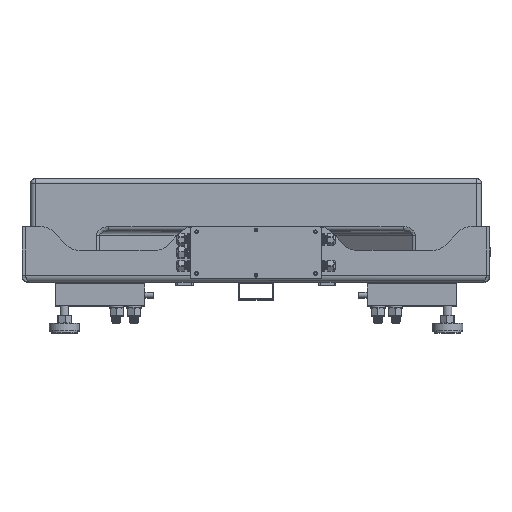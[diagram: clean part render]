
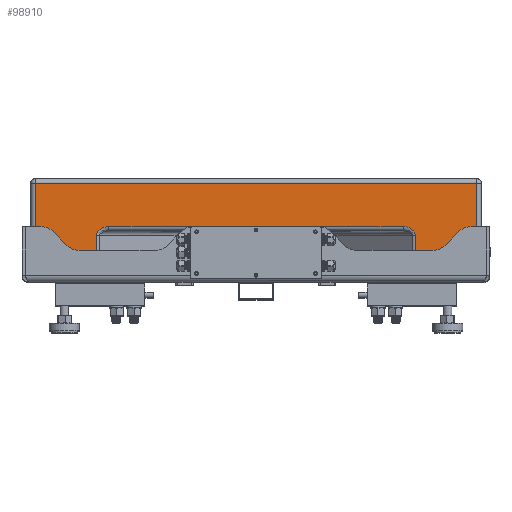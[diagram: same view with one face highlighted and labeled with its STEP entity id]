
A CAD part, top view. The second image highlights one B-rep face of the part: STEP entity #98910.
In plain terms, the highlighted planar face has unit normal (0, 0, 1).
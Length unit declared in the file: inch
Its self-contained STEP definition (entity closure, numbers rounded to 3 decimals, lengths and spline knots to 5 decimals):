
#420 = DIRECTION ( 'NONE',  ( 1., 0., 0. ) ) ;
#1470 = CARTESIAN_POINT ( 'NONE',  ( 9.04841, 3., 12.8145 ) ) ;
#1924 = EDGE_LOOP ( 'NONE', ( #128476, #69641, #35270, #62094, #43834, #9213, #21598, #48860, #27641, #70360, #4426, #20280, #61965, #93629, #49377, #106004 ) ) ;
#2315 = LINE ( 'NONE', #43437, #96408 ) ;
#3171 = EDGE_CURVE ( 'NONE', #106182, #100044, #76167, .T. ) ;
#3804 = LINE ( 'NONE', #24688, #96337 ) ;
#4422 = CARTESIAN_POINT ( 'NONE',  ( -12.6875, 5.5, 12.8145 ) ) ;
#4426 = ORIENTED_EDGE ( 'NONE', *, *, #22547, .T. ) ;
#5117 = EDGE_CURVE ( 'NONE', #71914, #8706, #93037, .T. ) ;
#6008 = CARTESIAN_POINT ( 'NONE',  ( -8.44486, 3., 12.8145 ) ) ;
#6174 = EDGE_CURVE ( 'NONE', #100855, #22885, #80651, .T. ) ;
#6747 = VERTEX_POINT ( 'NONE', #103478 ) ;
#6768 = VERTEX_POINT ( 'NONE', #62146 ) ;
#7357 =( BOUNDED_CURVE ( )  B_SPLINE_CURVE ( 3, ( #58912, #9866, #111360, #31410 ),
 .UNSPECIFIED., .F., .T. ) 
 B_SPLINE_CURVE_WITH_KNOTS ( ( 4, 4 ),
 ( 1.5708, 3.14159 ),
 .UNSPECIFIED. ) 
 CURVE ( )  GEOMETRIC_REPRESENTATION_ITEM ( )  RATIONAL_B_SPLINE_CURVE ( ( 1., 0.805, 0.805, 1. ) ) 
 REPRESENTATION_ITEM ( '' )  );
#8680 = DIRECTION ( 'NONE',  ( 0., 1., 0. ) ) ;
#8706 = VERTEX_POINT ( 'NONE', #121461 ) ;
#9213 = ORIENTED_EDGE ( 'NONE', *, *, #6174, .T. ) ;
#9866 = CARTESIAN_POINT ( 'NONE',  ( -8.85907, 3., 12.8145 ) ) ;
#10985 = VERTEX_POINT ( 'NONE', #23120 ) ;
#13567 = DIRECTION ( 'NONE',  ( 0., 0., -1. ) ) ;
#16883 = EDGE_CURVE ( 'NONE', #119955, #115424, #2315, .T. ) ;
#17274 = DIRECTION ( 'NONE',  ( 1., 0., 0. ) ) ;
#17351 = CARTESIAN_POINT ( 'NONE',  ( 8.85907, 3., 12.8145 ) ) ;
#18783 = VECTOR ( 'NONE', #54521, 39.37008 ) ;
#18963 = VECTOR ( 'NONE', #101961, 39.37008 ) ;
#19645 = EDGE_CURVE ( 'NONE', #81978, #96882, #61901, .T. ) ;
#19829 = CARTESIAN_POINT ( 'NONE',  ( -2.6875, 3., 12.8145 ) ) ;
#20018 = VECTOR ( 'NONE', #114847, 39.37008 ) ;
#20245 = AXIS2_PLACEMENT_3D ( 'NONE', #51053, #72081, #91116 ) ;
#20280 = ORIENTED_EDGE ( 'NONE', *, *, #111287, .T. ) ;
#21598 = ORIENTED_EDGE ( 'NONE', *, *, #27661, .F. ) ;
#21732 = DIRECTION ( 'NONE',  ( 1., 0., 0. ) ) ;
#22547 = EDGE_CURVE ( 'NONE', #8706, #6768, #128703, .T. ) ;
#22885 = VERTEX_POINT ( 'NONE', #99190 ) ;
#23120 = CARTESIAN_POINT ( 'NONE',  ( 2.6875, 3., 12.8145 ) ) ;
#24688 = CARTESIAN_POINT ( 'NONE',  ( -9.04841, 0.25, 12.8145 ) ) ;
#25349 = CIRCLE ( 'NONE', #90165, 0.5 ) ;
#27641 = ORIENTED_EDGE ( 'NONE', *, *, #35888, .F. ) ;
#27661 = EDGE_CURVE ( 'NONE', #10985, #22885, #25349, .T. ) ;
#31015 = CARTESIAN_POINT ( 'NONE',  ( -9.15197, 0.25, 12.8145 ) ) ;
#31410 = CARTESIAN_POINT ( 'NONE',  ( -9.15197, 2.5, 12.8145 ) ) ;
#34394 = CARTESIAN_POINT ( 'NONE',  ( -9.15197, 2.5, 12.8145 ) ) ;
#35270 = ORIENTED_EDGE ( 'NONE', *, *, #40231, .F. ) ;
#35888 = EDGE_CURVE ( 'NONE', #71914, #66668, #56594, .T. ) ;
#36626 = EDGE_CURVE ( 'NONE', #80128, #115424, #7357, .T. ) ;
#38959 = CARTESIAN_POINT ( 'NONE',  ( 9.15197, 2.5, 12.8145 ) ) ;
#39461 = LINE ( 'NONE', #89330, #64486 ) ;
#39623 = EDGE_CURVE ( 'NONE', #96882, #100855, #39461, .T. ) ;
#40184 = DIRECTION ( 'NONE',  ( 0., 0., 1. ) ) ;
#40231 = EDGE_CURVE ( 'NONE', #81978, #122178, #45211, .T. ) ;
#41236 = EDGE_CURVE ( 'NONE', #10985, #66668, #101052, .T. ) ;
#43437 = CARTESIAN_POINT ( 'NONE',  ( -9.15197, 2.75, 12.8145 ) ) ;
#43834 = ORIENTED_EDGE ( 'NONE', *, *, #39623, .T. ) ;
#45211 = CIRCLE ( 'NONE', #20245, 0.5 ) ;
#47438 = LINE ( 'NONE', #64577, #107725 ) ;
#48860 = ORIENTED_EDGE ( 'NONE', *, *, #41236, .T. ) ;
#49377 = ORIENTED_EDGE ( 'NONE', *, *, #72788, .T. ) ;
#49696 = CARTESIAN_POINT ( 'NONE',  ( 2.1875, 0.25, 12.8145 ) ) ;
#50054 = CARTESIAN_POINT ( 'NONE',  ( -2.1875, 5.75, 12.8145 ) ) ;
#50603 = DIRECTION ( 'NONE',  ( -1., 0., 0. ) ) ;
#51053 = CARTESIAN_POINT ( 'NONE',  ( -2.6875, 2.5, 12.8145 ) ) ;
#51688 = DIRECTION ( 'NONE',  ( 0., -1., 0. ) ) ;
#51916 = CARTESIAN_POINT ( 'NONE',  ( 2.6875, 2.5, 12.8145 ) ) ;
#52090 = VECTOR ( 'NONE', #94608, 39.37008 ) ;
#52842 = EDGE_CURVE ( 'NONE', #6747, #106182, #47438, .T. ) ;
#52981 = CARTESIAN_POINT ( 'NONE',  ( 9.15197, 5.75, 12.8145 ) ) ;
#53410 = DIRECTION ( 'NONE',  ( -1., 0., 0. ) ) ;
#54521 = DIRECTION ( 'NONE',  ( 1., 0., 0. ) ) ;
#56594 =( BOUNDED_CURVE ( )  B_SPLINE_CURVE ( 3, ( #118822, #88112, #17351, #78237 ),
 .UNSPECIFIED., .F., .T. ) 
 B_SPLINE_CURVE_WITH_KNOTS ( ( 4, 4 ),
 ( 0., 1.5708 ),
 .UNSPECIFIED. ) 
 CURVE ( )  GEOMETRIC_REPRESENTATION_ITEM ( )  RATIONAL_B_SPLINE_CURVE ( ( 1., 0.805, 0.805, 1. ) ) 
 REPRESENTATION_ITEM ( '' )  );
#58912 = CARTESIAN_POINT ( 'NONE',  ( -8.44486, 3., 12.8145 ) ) ;
#59849 = CARTESIAN_POINT ( 'NONE',  ( -2.1875, 0.25, 12.8145 ) ) ;
#61901 = LINE ( 'NONE', #50054, #18963 ) ;
#61965 = ORIENTED_EDGE ( 'NONE', *, *, #52842, .T. ) ;
#62094 = ORIENTED_EDGE ( 'NONE', *, *, #19645, .T. ) ;
#62146 = CARTESIAN_POINT ( 'NONE',  ( 12.6875, 0.25, 12.8145 ) ) ;
#62644 = FACE_OUTER_BOUND ( 'NONE', #1924, .T. ) ;
#63793 = CARTESIAN_POINT ( 'NONE',  ( 12.6875, 5.75, 12.8145 ) ) ;
#64486 = VECTOR ( 'NONE', #17274, 39.37008 ) ;
#64577 = CARTESIAN_POINT ( 'NONE',  ( -12.9375, 5.5, 12.8145 ) ) ;
#65076 = CARTESIAN_POINT ( 'NONE',  ( -12.6875, 5.75, 12.8145 ) ) ;
#66668 = VERTEX_POINT ( 'NONE', #86691 ) ;
#67973 = CARTESIAN_POINT ( 'NONE',  ( -12.6875, 0.25, 12.8145 ) ) ;
#69641 = ORIENTED_EDGE ( 'NONE', *, *, #116628, .T. ) ;
#70360 = ORIENTED_EDGE ( 'NONE', *, *, #5117, .T. ) ;
#71686 = DIRECTION ( 'NONE',  ( 0., 1., 0. ) ) ;
#71914 = VERTEX_POINT ( 'NONE', #38959 ) ;
#72081 = DIRECTION ( 'NONE',  ( 0., 0., 1. ) ) ;
#72788 = EDGE_CURVE ( 'NONE', #100044, #119955, #3804, .T. ) ;
#74221 = CARTESIAN_POINT ( 'NONE',  ( -2.4375, 3., 12.8145 ) ) ;
#76167 = LINE ( 'NONE', #65076, #20018 ) ;
#78237 = CARTESIAN_POINT ( 'NONE',  ( 8.44486, 3., 12.8145 ) ) ;
#78722 = VECTOR ( 'NONE', #420, 39.37008 ) ;
#80128 = VERTEX_POINT ( 'NONE', #6008 ) ;
#80651 = LINE ( 'NONE', #110156, #109705 ) ;
#81978 = VERTEX_POINT ( 'NONE', #105539 ) ;
#86691 = CARTESIAN_POINT ( 'NONE',  ( 8.44486, 3., 12.8145 ) ) ;
#88112 = CARTESIAN_POINT ( 'NONE',  ( 9.15197, 2.79289, 12.8145 ) ) ;
#89330 = CARTESIAN_POINT ( 'NONE',  ( 2.4375, 0.25, 12.8145 ) ) ;
#90165 = AXIS2_PLACEMENT_3D ( 'NONE', #51916, #40184, #50603 ) ;
#91116 = DIRECTION ( 'NONE',  ( -1., 0., 0. ) ) ;
#91425 = CARTESIAN_POINT ( 'NONE',  ( 12.9375, 0.25, 12.8145 ) ) ;
#93037 = LINE ( 'NONE', #52981, #97400 ) ;
#93314 = LINE ( 'NONE', #63793, #52090 ) ;
#93629 = ORIENTED_EDGE ( 'NONE', *, *, #3171, .T. ) ;
#94148 = DIRECTION ( 'NONE',  ( 1., 0., 0. ) ) ;
#94608 = DIRECTION ( 'NONE',  ( 0., 1., 0. ) ) ;
#96337 = VECTOR ( 'NONE', #94148, 39.37008 ) ;
#96408 = VECTOR ( 'NONE', #71686, 39.37008 ) ;
#96882 = VERTEX_POINT ( 'NONE', #59849 ) ;
#97400 = VECTOR ( 'NONE', #51688, 39.37008 ) ;
#98910 = ADVANCED_FACE ( 'NONE', ( #62644 ), #122883, .F. ) ;
#99190 = CARTESIAN_POINT ( 'NONE',  ( 2.1875, 2.5, 12.8145 ) ) ;
#100044 = VERTEX_POINT ( 'NONE', #67973 ) ;
#100855 = VERTEX_POINT ( 'NONE', #49696 ) ;
#101052 = LINE ( 'NONE', #1470, #112466 ) ;
#101961 = DIRECTION ( 'NONE',  ( 0., -1., 0. ) ) ;
#103478 = CARTESIAN_POINT ( 'NONE',  ( 12.6875, 5.5, 12.8145 ) ) ;
#105539 = CARTESIAN_POINT ( 'NONE',  ( -2.1875, 2.5, 12.8145 ) ) ;
#106004 = ORIENTED_EDGE ( 'NONE', *, *, #16883, .T. ) ;
#106182 = VERTEX_POINT ( 'NONE', #4422 ) ;
#106347 = LINE ( 'NONE', #74221, #18783 ) ;
#107725 = VECTOR ( 'NONE', #124141, 39.37008 ) ;
#109705 = VECTOR ( 'NONE', #8680, 39.37008 ) ;
#110156 = CARTESIAN_POINT ( 'NONE',  ( 2.1875, 2.75, 12.8145 ) ) ;
#111287 = EDGE_CURVE ( 'NONE', #6768, #6747, #93314, .T. ) ;
#111360 = CARTESIAN_POINT ( 'NONE',  ( -9.15197, 2.79289, 12.8145 ) ) ;
#112466 = VECTOR ( 'NONE', #21732, 39.37008 ) ;
#113294 = AXIS2_PLACEMENT_3D ( 'NONE', #122249, #13567, #53410 ) ;
#114847 = DIRECTION ( 'NONE',  ( 0., -1., 0. ) ) ;
#115424 = VERTEX_POINT ( 'NONE', #34394 ) ;
#116628 = EDGE_CURVE ( 'NONE', #80128, #122178, #106347, .T. ) ;
#118822 = CARTESIAN_POINT ( 'NONE',  ( 9.15197, 2.5, 12.8145 ) ) ;
#119955 = VERTEX_POINT ( 'NONE', #31015 ) ;
#121461 = CARTESIAN_POINT ( 'NONE',  ( 9.15197, 0.25, 12.8145 ) ) ;
#122178 = VERTEX_POINT ( 'NONE', #19829 ) ;
#122249 = CARTESIAN_POINT ( 'NONE',  ( -12.9375, 5.75, 12.8145 ) ) ;
#122883 = PLANE ( 'NONE',  #113294 ) ;
#124141 = DIRECTION ( 'NONE',  ( -1., 0., 0. ) ) ;
#128476 = ORIENTED_EDGE ( 'NONE', *, *, #36626, .F. ) ;
#128703 = LINE ( 'NONE', #91425, #78722 ) ;
